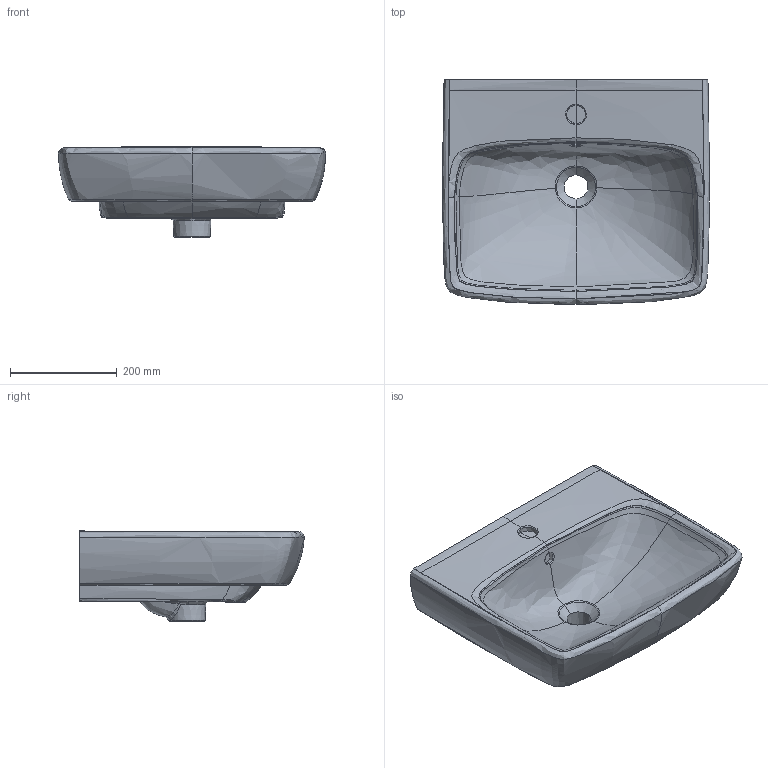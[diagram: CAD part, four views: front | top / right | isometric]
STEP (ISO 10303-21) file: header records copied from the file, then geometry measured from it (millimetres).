
FILE_DESCRIPTION(/* description */ (''),/* implementation_level */ '2;1');
FILE_NAME(/* name */ 'C:\Planerdaten\Export PLA\500.310.01.1\stp\500310.stp',/* time_stamp */ '2020-05-01T05:28:05-07:00',/* author */ ('JANAN'),/* organization */ (''),/* preprocessor_version */ 'ST-DEVELOPER v16.13',/* originating_system */ 'Autodesk Inventor 2018',/* authorisation */ '');
FILE_SCHEMA (('AUTOMOTIVE_DESIGN { 1 0 10303 214 3 1 1 }'));
Products named in the file (1): HWB Ge+SnvS B50 m/ÜLF m/HLo
Bounding box: 499.71 x 420.5 x 169.99 mm (x, y, z)
Volume: 13789449.1 mm3; surface area: 658384.7 mm2
Topology: 1 solids, 1 shells, 148 faces, 358 edges, 214 vertices
Faces by surface type: bspline 124, plane 15, cylinder 7, cone 1, torus 1
Full cylindrical faces by diameter (mm): 46 x1
Entity records: 65039 total; most frequent: CARTESIAN_POINT 62255, ORIENTED_EDGE 712, EDGE_CURVE 356, DIRECTION 258, B_SPLINE_CURVE_WITH_KNOTS 217, VERTEX_POINT 214, EDGE_LOOP 154, STYLED_ITEM 149
